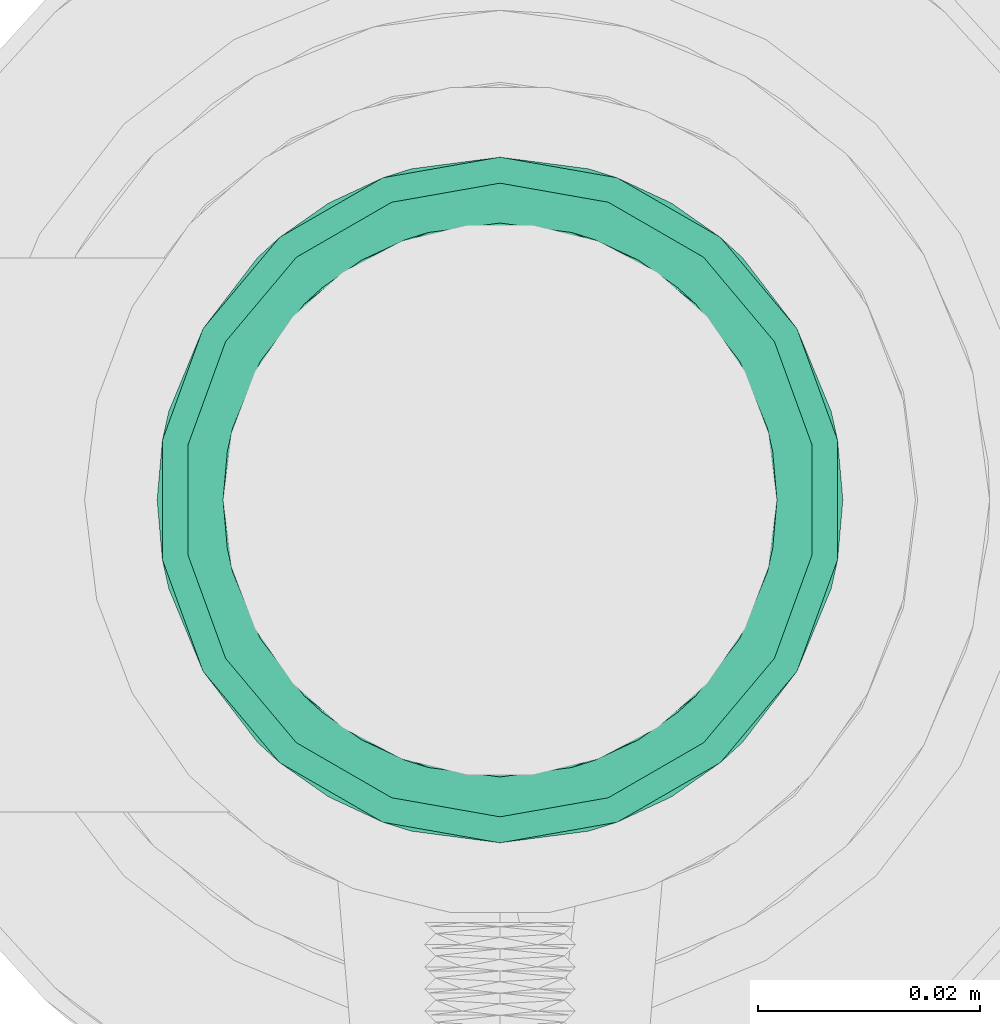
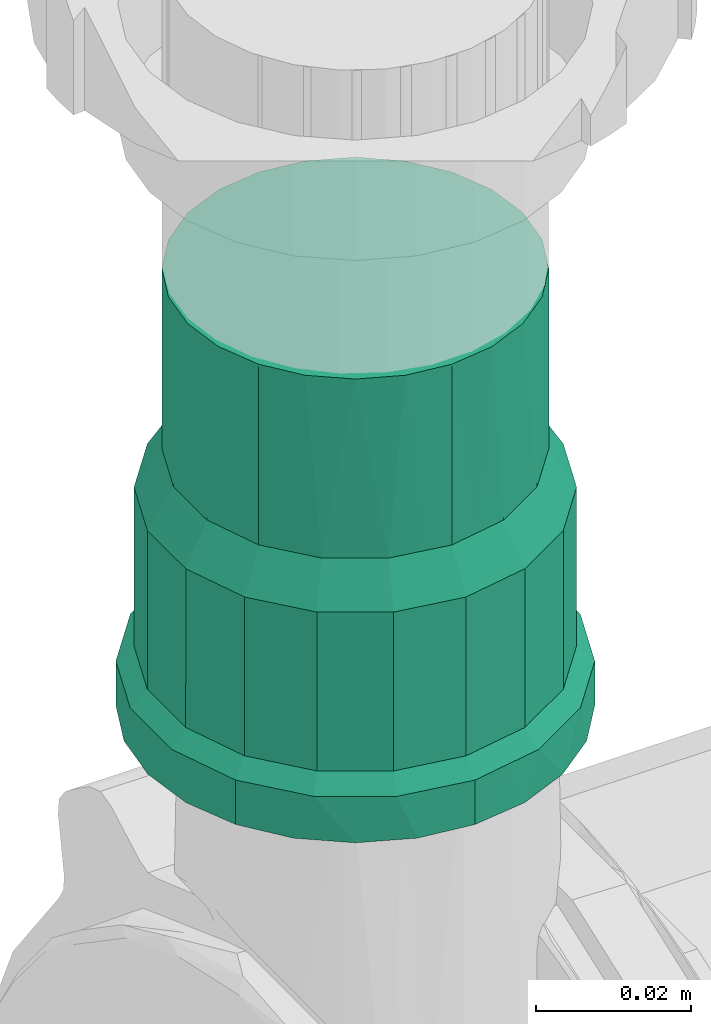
# One storey, part 163 of 166: 1 flow fitting.
"""IFC2X3 building model written with IfcOpenShell, lengths in metres."""

import ifcopenshell
import ifcopenshell.guid

model = None  # the IFC model being written
_history = None  # IfcOwnerHistory: only IFC2X3 demands one
_inside = {}  # id of a spatial element -> (the spatial element, [elements in it])
_under = {}  # id of a project, library or spatial element -> (it, [spatial elements below it])
_declared = {}  # id of a project -> (the project, [libraries it declares])
_typed = {}  # id of a type object -> (the type object, [elements of that type])
_made_of = {}  # id of a material, layer set ... -> (it, [elements and type objects made of it])


def new_model(schema):
    """Start an empty IFC model of exactly this schema.

    Asked for "IFC4X3", IfcOpenShell would pick the latest addendum, in which some entities
    have other attributes; the version numbers below select the first issue.
    IFC2X3 requires an IfcOwnerHistory on every rooted entity: one is made here for all.
    """
    global model, _history
    if schema == "IFC4X3":
        model = ifcopenshell.file(schema_version=(4, 3, 0, 0))
    else:
        model = ifcopenshell.file(schema=schema)
    _inside.clear()
    _under.clear()
    _declared.clear()
    _typed.clear()
    _made_of.clear()
    _history = None
    if model.schema == "IFC2X3":
        org = make("IfcOrganization", Name="unknown")
        user = make(
            "IfcPersonAndOrganization",
            ThePerson=make("IfcPerson", FamilyName="unknown"),
            TheOrganization=org,
        )
        app = make(
            "IfcApplication",
            ApplicationDeveloper=org,
            Version="unknown",
            ApplicationFullName="unknown",
            ApplicationIdentifier="unknown",
        )
        _history = make(
            "IfcOwnerHistory",
            OwningUser=user,
            OwningApplication=app,
            ChangeAction="ADDED",
            CreationDate=0,
        )
    return model


def make(cls, **values):
    """One entity of the class cls with the attributes given. An attribute that is None is left unset."""
    return model.create_entity(
        cls, **{name: value for name, value in values.items() if value is not None}
    )


def entity(cls, *values):
    """Any entity or typed value of the class cls, its attributes in the order of the schema. None: left unset."""
    e = model.create_entity(cls)
    for i, value in enumerate(values):
        if value is not None:
            e[i] = value
    return e


def rooted(cls, **values):
    """An entity with a GlobalId (a new one), such as an element, a storey or a relation."""
    return make(cls, GlobalId=ifcopenshell.guid.new(), OwnerHistory=_history, **values)


def si_unit(unit_type, name, prefix=None):
    """IfcSIUnit, for example si_unit("LENGTHUNIT", "METRE", prefix="MILLI")."""
    return make("IfcSIUnit", UnitType=unit_type, Prefix=prefix, Name=name)


def converted_unit(unit_type, name, factor, base, dimensions=None, offset=None):
    """IfcConversionBasedUnit, such as the inch: factor (a typed value) times the base unit."""
    return make(
        "IfcConversionBasedUnit"
        if offset is None
        else "IfcConversionBasedUnitWithOffset",
        ConversionOffset=offset,
        Dimensions=None
        if dimensions is None
        else entity("IfcDimensionalExponents", *dimensions),
        UnitType=unit_type,
        Name=name,
        ConversionFactor=make(
            "IfcMeasureWithUnit", ValueComponent=factor, UnitComponent=base
        ),
    )


def assignment(units):
    """IfcUnitAssignment: the units of a project."""
    return None if units is None else make("IfcUnitAssignment", Units=units)


def point(xyz):
    """IfcCartesianPoint."""
    return None if xyz is None else make("IfcCartesianPoint", Coordinates=xyz)


def direction(xyz):
    """IfcDirection."""
    return None if xyz is None else make("IfcDirection", DirectionRatios=xyz)


def frame(location, z_axis=None, x_axis=None):
    """IfcAxis2Placement3D, a coordinate frame: its origin and axes. An axis left out is left unset."""
    return make(
        "IfcAxis2Placement3D",
        Location=point(location),
        Axis=direction(z_axis),
        RefDirection=direction(x_axis),
    )


def origin():
    """The frame at (0, 0, 0) with its axes left unset."""
    return frame((0.0, 0.0, 0.0))


def place(relative_to, where):
    """IfcLocalPlacement: puts the frame where relative to a parent placement (None: the world)."""
    return make(
        "IfcLocalPlacement", PlacementRelTo=relative_to, RelativePlacement=where
    )


def context(
    kind, dimensions, precision=None, world=None, true_north=None, identifier=None
):
    """IfcGeometricRepresentationContext, for example the 3D "Model" context."""
    return make(
        "IfcGeometricRepresentationContext",
        ContextIdentifier=identifier,
        ContextType=kind,
        CoordinateSpaceDimension=dimensions,
        Precision=precision,
        WorldCoordinateSystem=world,
        TrueNorth=true_north,
    )


def subcontext(parent, identifier, kind, view, scale=None):
    """IfcGeometricRepresentationSubContext, for example "Body" below "Model"."""
    return make(
        "IfcGeometricRepresentationSubContext",
        ContextIdentifier=identifier,
        ContextType=kind,
        ParentContext=parent,
        TargetScale=scale,
        TargetView=view,
    )


def project(units=None, contexts=None):
    """IfcProject with its units and contexts."""
    return rooted(
        "IfcProject",
        Name="project",
        RepresentationContexts=contexts,
        UnitsInContext=assignment(units),
    )


def spatial(cls, under=None, at=None, **own):
    """A site, building, storey or space (cls), placed at a placement, below another one or the project."""
    s = rooted(cls, ObjectPlacement=at, **own)
    if under is not None:
        _under.setdefault(under.id(), (under, []))[1].append(s)
    return s


def faces_of(points, faces, orient=None, outer=None):
    """IfcFace entities. A face is a list of loops; a loop is a list of indices into points, from 0.

    orient and outer hold one flag for each loop. By default every Orientation is true, the
    first loop of a face is its IfcFaceOuterBound and the others are IfcFaceBound.
    """
    made = []
    for i, loops in enumerate(faces):
        bounds = []
        for j, loop in enumerate(loops):
            is_outer = j == 0 if outer is None else outer[i][j]
            bounds.append(
                make(
                    "IfcFaceOuterBound" if is_outer else "IfcFaceBound",
                    Bound=make("IfcPolyLoop", Polygon=[points[k] for k in loop]),
                    Orientation=True if orient is None else orient[i][j],
                )
            )
        made.append(make("IfcFace", Bounds=bounds))
    return made


def faceted_brep(points, faces, orient=None, outer=None, voids=None):
    """IfcFacetedBrep: a solid bounded by flat faces; with voids (closed shells), ...WithVoids."""
    shared = [point(p) for p in points]
    hull = make("IfcClosedShell", CfsFaces=faces_of(shared, faces, orient, outer))
    if voids is None:
        return make("IfcFacetedBrep", Outer=hull)
    return make(
        "IfcFacetedBrepWithVoids",
        Outer=hull,
        Voids=[
            make(cls, CfsFaces=faces_of(shared, fs, o, b)) for cls, fs, o, b in voids
        ],
    )


def shape(context_of_items, identifier, shape_type, items):
    """IfcShapeRepresentation: the items that make up one representation, for example the "Body"."""
    return make(
        "IfcShapeRepresentation",
        ContextOfItems=context_of_items,
        RepresentationIdentifier=identifier,
        RepresentationType=shape_type,
        Items=items,
    )


def source(mapping_origin, context_of_items, identifier, shape_type, items):
    """IfcRepresentationMap: a shape defined once, which mapped items show again and again."""
    return make(
        "IfcRepresentationMap",
        MappingOrigin=mapping_origin,
        MappedRepresentation=shape(context_of_items, identifier, shape_type, items),
    )


def transform(
    local_origin,
    x_axis=None,
    y_axis=None,
    z_axis=None,
    scale=None,
    scale2=None,
    scale3=None,
    uniform=True,
):
    """IfcCartesianTransformationOperator3D, or its non-uniform kind. x_axis, y_axis, z_axis: its Axis1, 2, 3."""
    if uniform:
        return make(
            "IfcCartesianTransformationOperator3D",
            Axis1=direction(x_axis),
            Axis2=direction(y_axis),
            LocalOrigin=point(local_origin),
            Scale=scale,
            Axis3=direction(z_axis),
        )
    return make(
        "IfcCartesianTransformationOperator3DnonUniform",
        Axis1=direction(x_axis),
        Axis2=direction(y_axis),
        LocalOrigin=point(local_origin),
        Scale=scale,
        Axis3=direction(z_axis),
        Scale2=scale2,
        Scale3=scale3,
    )


def mapped(mapping_source, mapping_target):
    """IfcMappedItem: shows the shape of a source again, moved by a transform."""
    return make(
        "IfcMappedItem", MappingSource=mapping_source, MappingTarget=mapping_target
    )


def material(Name=None, Category=None):
    """IfcMaterial."""
    return make("IfcMaterial", Name=Name, Category=Category)


def made_of(thing, what):
    """Note that an element or type object is made of a material, layer set ...; save() writes the relation."""
    if what is not None:
        _made_of.setdefault(what.id(), (what, []))[1].append(thing)
    return thing


def type_object(cls, material=None, **own):
    """A type object (cls), such as IfcWallType, which elements share."""
    return made_of(rooted(cls, **own), material)


def type_shapes(of_type, sources):
    """Give a type object the sources (RepresentationMaps) that its elements show as mapped items."""
    of_type.RepresentationMaps = sources


def element(
    cls,
    number,
    at=None,
    inside=None,
    cuts=None,
    type_object=None,
    material=None,
    context=None,
    identifier="Body",
    shape_type=None,
    held_by="IfcProductDefinitionShape",
    body=None,
    shapes=None,
    **own,
):
    """One element of the class cls, such as IfcWall. Its Tag is "e" and its number.

    at: its placement. inside: the storey or other place that contains it. cuts: it is an
    opening in that element (IfcRelVoidsElement). A single representation is given by context,
    identifier, shape_type and body (its items); several are given by shapes. held_by: the class
    of the entity that holds the representations. save() writes the other relations.
    """
    e = rooted(cls, Tag="e%d" % number, ObjectPlacement=at, **own)
    if body is not None:
        shapes = [shape(context, identifier, shape_type, body)]
    if shapes is not None:
        e.Representation = make(held_by, Representations=shapes)
    if inside is not None:
        _inside.setdefault(inside.id(), (inside, []))[1].append(e)
    if cuts is not None:
        rooted(
            "IfcRelVoidsElement", RelatingBuildingElement=cuts, RelatedOpeningElement=e
        )
    if type_object is not None:
        _typed.setdefault(type_object.id(), (type_object, []))[1].append(e)
    return made_of(e, material)


def aggregate(whole, parts):
    """IfcRelAggregates: a whole, such as a stair, and the parts it consists of."""
    return rooted("IfcRelAggregates", RelatingObject=whole, RelatedObjects=parts)


def save(model, path):
    """Write the relations noted so far, then the file.

    IfcRelAggregates (storeys below a building ...), IfcRelContainedInSpatialStructure (elements
    in a storey), IfcRelDefinesByType, IfcRelAssociatesMaterial and IfcRelDeclares: one each for
    every whole, place, type object, material and project.
    """
    for whole, parts in _under.values():
        aggregate(whole, parts)
    for where, things in _inside.values():
        rooted(
            "IfcRelContainedInSpatialStructure",
            RelatedElements=things,
            RelatingStructure=where,
        )
    for kind, things in _typed.values():
        rooted("IfcRelDefinesByType", RelatedObjects=things, RelatingType=kind)
    for what, things in _made_of.values():
        rooted("IfcRelAssociatesMaterial", RelatedObjects=things, RelatingMaterial=what)
    for by, libraries in _declared.values():
        rooted("IfcRelDeclares", RelatingContext=by, RelatedDefinitions=libraries)
    model.write(path)


model = new_model("IFC2X3")

# Units and contexts
model_context = context("Model", 3, precision=1e-05, world=origin(), true_north=direction((6.123233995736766e-17, 1.0)))
body_context = subcontext(model_context, "Body", "Model", "MODEL_VIEW")
ifc_project = project(units=[si_unit("LENGTHUNIT", "METRE"), converted_unit("PLANEANGLEUNIT", "DEGREE", entity("IfcPlaneAngleMeasure", 0.017453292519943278), si_unit("PLANEANGLEUNIT", "RADIAN"), dimensions=[0, 0, 0, 0, 0, 0, 0]), si_unit("AREAUNIT", "SQUARE_METRE")], contexts=[model_context])

# Site, building, storey
site_placement = place(None, origin())
site = spatial("IfcSite", under=ifc_project, at=site_placement, Name="Default", CompositionType="ELEMENT")
building_placement = place(site_placement, origin())
building = spatial("IfcBuilding", under=site, at=building_placement, Name="CASA DE ACOLHIDA PARA IDOSOS", CompositionType="ELEMENT")
storey_placement = place(building_placement, frame((0.0, 0.0, -1.7499999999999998)))
storey = spatial("IfcBuildingStorey", under=building, at=storey_placement, Name="IMPLANTAÇÃO DRENAGEM", CompositionType="ELEMENT", Elevation=-1.7499999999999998)

# Flow fitting
ifc_material = material(Name="PVC Marrom")
pipe_fitting_type = type_object("IfcPipeFittingType", Name="AF_Soldavel_Adaptador Curto com Bolsa e Rosca:Standard", PredefinedType="NOTDEFINED", material=ifc_material)
shared_shape = source(origin(), body_context, "Body", "Brep", [
    faceted_brep([(0.0, 0.012499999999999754, -0.02165063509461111), (0.0, 0.02188495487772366, -0.021884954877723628), (0.0, 0.015475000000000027, -0.026803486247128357), (0.0, 0.017677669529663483, -0.0176776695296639), (0.0, 0.00647047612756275, -0.024148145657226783), (0.0, 0.026803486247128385, -0.015474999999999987), (0.0, 0.021650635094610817, -0.012500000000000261), (0.0, 0.02414814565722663, -0.006470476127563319), (0.0, 0.029895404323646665, -0.00801044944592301), (0.0, 0.025, 0.0), (0.0, 0.03095, 0.0), (0.0, 0.02414814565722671, 0.006470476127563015), (0.0, 0.02989540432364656, 0.008010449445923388), (0.0, 0.02165063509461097, 0.012499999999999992), (0.0, 0.02680348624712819, 0.015475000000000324), (0.0, 0.017677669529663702, 0.017677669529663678), (0.0, 0.02188495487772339, 0.021884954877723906), (0.0, 0.012500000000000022, 0.021650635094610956), (0.0, 0.015474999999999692, 0.026803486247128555), (0.0, 0.006470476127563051, 0.0241481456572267), (0.0, 0.008010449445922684, 0.029895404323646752), (0.0, 0.0, 0.025), (0.0, 0.0, 0.03095), (0.0, -0.006470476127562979, 0.024148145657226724), (0.0, -0.008010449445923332, 0.029895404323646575), (0.0, -0.012499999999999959, 0.021650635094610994), (0.0, -0.015475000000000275, 0.026803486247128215), (0.0, -0.01767766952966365, 0.01767766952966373), (0.0, -0.021884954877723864, 0.021884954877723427), (0.0, -0.021650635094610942, 0.012500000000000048), (0.0, -0.02680348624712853, 0.015474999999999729), (0.0, -0.029895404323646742, 0.008010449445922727), (0.0, -0.02414814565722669, 0.00647047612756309), (0.0, -0.03095, 0.0), (0.0, -0.025, 0.0), (0.0, -0.029895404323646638, -0.008010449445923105), (0.0, -0.024148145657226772, -0.006470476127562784), (0.0, -0.026803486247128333, -0.015475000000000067), (0.0, -0.0216506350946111, -0.012499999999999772), (0.0, -0.021884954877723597, -0.021884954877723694), (0.0, -0.017677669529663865, -0.01767766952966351), (0.0, -0.015474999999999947, -0.02680348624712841), (0.0, -0.012500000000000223, -0.021650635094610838), (0.0, -0.008010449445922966, -0.029895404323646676), (0.0, -0.006470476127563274, -0.02414814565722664), (0.0, 0.0, -0.03095), (0.0, 0.0, -0.025), (0.0, 0.008010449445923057, -0.02989540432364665), (0.006999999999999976, -0.030016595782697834, 0.00529316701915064), (0.006999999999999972, -0.02988065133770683, 0.006064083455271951), (0.006999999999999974, -0.029083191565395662, 0.010586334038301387), (0.006999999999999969, -0.0237079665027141, 0.019895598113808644), (0.0069999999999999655, -0.019590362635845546, 0.0233501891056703), (0.0069999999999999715, -0.026395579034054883, 0.015240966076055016), (0.006999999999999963, -0.0053710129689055, 0.030480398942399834), (0.006999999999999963, -0.010421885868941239, 0.0286425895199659), (0.0069999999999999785, -0.03095, 0.0), (0.006999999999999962, -0.015472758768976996, 0.026804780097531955), (0.006999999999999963, 0.010429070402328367, 0.028639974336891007), (0.006999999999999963, 0.01547948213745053, 0.026800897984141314), (0.006999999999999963, 0.005378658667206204, 0.030479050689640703), (0.006999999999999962, 0.019596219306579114, 0.023345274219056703), (0.006999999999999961, 0.023712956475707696, 0.019889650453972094), (0.006999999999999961, 0.02908584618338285, 0.010579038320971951), (0.0069999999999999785, 0.03095, 0.0), (0.006999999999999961, 0.02639940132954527, 0.01523434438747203), (0.006999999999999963, 3.822849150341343e-06, 0.03047972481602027), (0.007000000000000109, 0.02908584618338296, -0.010579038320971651), (0.007000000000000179, 0.023712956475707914, -0.019889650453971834), (0.0070000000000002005, 0.019596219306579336, -0.023345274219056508), (0.007000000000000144, 0.02639940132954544, -0.01523434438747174), (0.007000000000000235, 0.005378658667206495, -0.030479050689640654), (0.007000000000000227, 0.01042907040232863, -0.028639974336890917), (0.007000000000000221, 0.015479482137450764, -0.02680089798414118), (0.007000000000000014, -0.030016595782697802, -0.005293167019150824), (0.007000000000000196, -0.010421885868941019, -0.028642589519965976), (0.007000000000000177, -0.0154727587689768, -0.02680478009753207), (0.007000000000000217, -0.005371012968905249, -0.030480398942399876), (0.007000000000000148, -0.019590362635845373, -0.023350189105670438), (0.007000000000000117, -0.023707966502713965, -0.019895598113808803), (0.007000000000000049, -0.0290831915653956, -0.010586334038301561), (0.007000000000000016, -0.029880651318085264, -0.006064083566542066), (0.007000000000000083, -0.026395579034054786, -0.015240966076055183), (0.007000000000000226, 3.8228491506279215e-06, -0.03047972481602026), (0.009400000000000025, -0.026874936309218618, 0.009782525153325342), (0.009400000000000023, -0.027737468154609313, 0.004891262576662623), (0.034449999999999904, -0.026875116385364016, 0.009782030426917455), (0.009400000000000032, -0.018102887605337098, 0.021577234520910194), (0.034449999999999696, -0.014299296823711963, 0.024768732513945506), (0.009400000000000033, -0.014297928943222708, 0.024769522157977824), (0.009400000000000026, -0.024391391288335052, 0.014083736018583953), (0.03444999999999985, -0.024391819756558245, 0.014083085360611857), (0.0344499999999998, -0.021908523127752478, 0.018384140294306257), (0.03444999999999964, -0.004965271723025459, 0.028165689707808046), (0.009400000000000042, -0.004963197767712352, 0.028166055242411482), (0.009400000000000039, -0.00963056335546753, 0.02646778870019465), (0.009400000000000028, -0.021907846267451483, 0.018384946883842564), (0.009400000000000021, -0.028600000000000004, 0.0), (0.03444999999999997, -0.027796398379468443, 0.004557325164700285), (0.03444999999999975, -0.018103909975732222, 0.02157643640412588), (0.03444999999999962, 0.004967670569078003, 0.028165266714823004), (0.009400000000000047, 3.532584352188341e-06, 0.02816543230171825), (0.034449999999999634, 1.1994230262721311e-06, 0.028165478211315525), (0.03444999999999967, -0.009632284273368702, 0.026467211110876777), (0.009400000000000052, 0.004970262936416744, 0.028164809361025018), (0.009400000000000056, 0.00963720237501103, 0.026465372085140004), (0.034449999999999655, 0.014301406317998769, 0.02476751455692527), (0.009400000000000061, 0.014304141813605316, 0.024765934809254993), (0.0344499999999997, 0.018105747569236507, 0.021574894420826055), (0.03444999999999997, -0.02773755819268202, 0.004891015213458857), (0.03444999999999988, 0.026875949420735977, 0.009779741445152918), (0.03445000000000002, 0.028600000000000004, 0.0), (0.009400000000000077, 0.02687738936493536, 0.009775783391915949), (0.03444999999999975, 0.021910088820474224, 0.018382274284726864), (0.00940000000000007, 0.021912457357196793, 0.018379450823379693), (0.009400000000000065, 0.018108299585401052, 0.02157269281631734), (0.03444999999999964, 0.00963453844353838, 0.02646639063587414), (0.009400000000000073, 0.02439492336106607, 0.014077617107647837), (0.03445000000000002, -0.028600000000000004, 0.0), (0.009400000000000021, 0.028600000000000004, 0.0), (0.034449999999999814, 0.0243930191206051, 0.014081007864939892), (0.009400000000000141, 0.026877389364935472, -0.00977578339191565), (0.03445000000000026, 0.02687594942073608, -0.00977974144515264), (0.009400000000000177, -0.01810288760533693, -0.02157723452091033), (0.034450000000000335, -0.01429929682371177, -0.02476873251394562), (0.03445000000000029, -0.01810390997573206, -0.02157643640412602), (0.009400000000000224, 0.018108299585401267, -0.021572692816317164), (0.009400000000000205, 0.021912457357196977, -0.01837945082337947), (0.03445000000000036, 0.02191008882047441, -0.018382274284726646), (0.009400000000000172, 0.024394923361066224, -0.014077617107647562), (0.034450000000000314, 0.024393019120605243, -0.014081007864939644), (0.009400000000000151, -0.021907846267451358, -0.01838494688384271), (0.034450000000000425, 1.1994230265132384e-06, -0.028165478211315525), (0.009400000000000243, -0.00496319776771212, -0.028166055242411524), (0.00940000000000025, 3.5325843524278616e-06, -0.02816543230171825), (0.00940000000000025, 0.009637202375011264, -0.026465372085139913), (0.009400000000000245, 0.014304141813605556, -0.024765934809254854), (0.034450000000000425, 0.014301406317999, -0.02476751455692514), (0.009400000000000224, -0.00963056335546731, -0.026467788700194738), (0.03445000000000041, -0.004965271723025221, -0.028165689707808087), (0.03445000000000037, -0.009632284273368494, -0.026467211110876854), (0.034450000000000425, 0.009634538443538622, -0.02646639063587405), (0.009400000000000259, 0.0049702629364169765, -0.028164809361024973), (0.009400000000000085, -0.026874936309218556, -0.009782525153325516), (0.009400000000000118, -0.024391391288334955, -0.014083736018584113), (0.03445000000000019, -0.024391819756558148, -0.014083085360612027), (0.03445000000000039, 0.0181057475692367, -0.021574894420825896), (0.03445000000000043, 0.004967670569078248, -0.02816526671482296), (0.03445000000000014, -0.02687511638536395, -0.009782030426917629), (0.03445000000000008, -0.02779639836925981, -0.004557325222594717), (0.009400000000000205, -0.014297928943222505, -0.024769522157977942), (0.009400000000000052, -0.02773746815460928, -0.004891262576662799), (0.034450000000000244, -0.021908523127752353, -0.01838414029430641), (0.03445000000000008, -0.027737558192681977, -0.004891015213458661), (0.06899999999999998, 0.006470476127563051, -0.0241481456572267), (0.06899999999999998, 0.012500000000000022, -0.021650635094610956), (0.06899999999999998, 0.017677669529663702, -0.017677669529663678), (0.06899999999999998, 0.021650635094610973, -0.01249999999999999), (0.06899999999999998, 0.02414814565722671, -0.006470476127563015), (0.06899999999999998, 0.025, 0.0), (0.06899999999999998, 0.02414814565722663, 0.006470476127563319), (0.06899999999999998, 0.021650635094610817, 0.012500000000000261), (0.06899999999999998, 0.017677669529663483, 0.0176776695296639), (0.06899999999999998, 0.012499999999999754, 0.02165063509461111), (0.06899999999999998, 0.00647047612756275, 0.024148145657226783), (0.06899999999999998, 0.0, 0.025), (0.06899999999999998, -0.006470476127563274, 0.02414814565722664), (0.06899999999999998, -0.012500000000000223, 0.021650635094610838), (0.06899999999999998, -0.017677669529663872, 0.017677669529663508), (0.06899999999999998, -0.021650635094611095, 0.012499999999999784), (0.06899999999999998, -0.024148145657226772, 0.006470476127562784), (0.06899999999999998, -0.025, 0.0), (0.06899999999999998, -0.02414814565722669, -0.00647047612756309), (0.06899999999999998, -0.021650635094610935, -0.012500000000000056), (0.06899999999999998, -0.01767766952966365, -0.01767766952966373), (0.06899999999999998, -0.012499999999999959, -0.021650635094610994), (0.06899999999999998, -0.006470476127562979, -0.024148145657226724), (0.06899999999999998, 0.0, -0.025), (0.04049999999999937, -0.00841832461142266, 0.02313617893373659), (0.04049999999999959, -0.0191502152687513, 0.016070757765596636), (0.04049999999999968, -0.021321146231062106, 0.012310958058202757), (0.04049999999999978, -0.023492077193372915, 0.008551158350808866), (0.040499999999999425, -0.012498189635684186, 0.02165168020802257), (0.04049999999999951, -0.015824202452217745, 0.018861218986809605), (0.040499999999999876, -0.024246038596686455, 0.0042755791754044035), (0.04049999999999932, -0.004338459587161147, 0.024620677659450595), (0.04049999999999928, 0.00434463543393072, 0.02461958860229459), (0.04049999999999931, 3.0879233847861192e-06, 0.024620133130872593), (0.04049999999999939, 0.015828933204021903, 0.018857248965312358), (0.04049999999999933, 0.012503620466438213, 0.021648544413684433), (0.04049999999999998, -0.025, 0.0), (0.04049999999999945, 0.019154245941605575, 0.016065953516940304), (0.04049999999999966, 0.023494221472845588, 0.00854526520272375), (0.04049999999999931, 0.008424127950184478, 0.023134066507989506), (0.04049999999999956, 0.021324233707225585, 0.012305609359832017), (0.04049999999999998, 0.025, 0.0), (0.04050000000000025, 0.019154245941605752, -0.01606595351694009), (0.04050000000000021, -0.015824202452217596, -0.018861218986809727), (0.04050000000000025, -0.012498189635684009, -0.02165168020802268), (0.04050000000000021, 0.02132423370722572, -0.012305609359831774), (0.04050000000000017, 0.023494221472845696, -0.008545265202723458), (0.040500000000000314, 0.012503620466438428, -0.02164854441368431), (0.040500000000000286, 0.01582893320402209, -0.0188572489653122), (0.04050000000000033, 0.004344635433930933, -0.024619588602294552), (0.04050000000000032, 0.008424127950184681, -0.02313406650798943), (0.040500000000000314, -0.004338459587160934, -0.02462067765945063), (0.04050000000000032, 3.08792338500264e-06, -0.024620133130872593), (0.040500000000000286, -0.008418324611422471, -0.023136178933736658), (0.04050000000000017, -0.019150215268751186, -0.016070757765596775), (0.04050000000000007, -0.02349207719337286, -0.008551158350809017), (0.04050000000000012, -0.021321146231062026, -0.01231095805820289), (0.04050000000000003, -0.024246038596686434, -0.004275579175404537), (0.009400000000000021, -0.025, 0.0), (0.03445000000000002, -0.025, 0.0), (0.03445000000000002, -0.024148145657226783, -0.006470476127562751), (0.009400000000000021, -0.024148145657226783, -0.006470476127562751), (0.0069999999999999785, -0.024148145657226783, -0.006470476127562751), (0.0069999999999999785, -0.025, 0.0), (0.03445000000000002, -0.021650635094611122, -0.012499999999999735), (0.009400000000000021, -0.021650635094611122, -0.012499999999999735), (0.0069999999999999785, -0.021650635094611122, -0.012499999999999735), (0.009400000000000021, -0.012500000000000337, -0.021650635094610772), (0.0069999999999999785, -0.012500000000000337, -0.021650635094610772), (0.0069999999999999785, -0.017677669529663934, -0.01767766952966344), (0.009400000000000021, -0.017677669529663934, -0.01767766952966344), (0.03445000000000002, -0.017677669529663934, -0.01767766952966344), (0.03445000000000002, -0.012500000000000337, -0.021650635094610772), (0.009400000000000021, -0.006470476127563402, -0.02414814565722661), (0.0069999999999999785, -0.006470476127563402, -0.02414814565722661), (0.03445000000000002, -0.006470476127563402, -0.02414814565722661), (0.03445000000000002, 0.0, -0.025), (0.009400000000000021, 0.0, -0.025), (0.0069999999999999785, 0.0, -0.025), (0.03445000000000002, 0.00647047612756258, -0.024148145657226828), (0.009400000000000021, 0.00647047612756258, -0.024148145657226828), (0.0069999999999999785, 0.00647047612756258, -0.024148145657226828), (0.03445000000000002, 0.012499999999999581, -0.021650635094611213), (0.009400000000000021, 0.012499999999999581, -0.021650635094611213), (0.0069999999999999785, 0.012499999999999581, -0.021650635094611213), (0.03445000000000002, 0.024148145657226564, -0.0064704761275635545), (0.03445000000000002, 0.025, 0.0), (0.009400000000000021, 0.025, 0.0), (0.0069999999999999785, 0.025, 0.0), (0.0069999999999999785, 0.02414814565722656, -0.006470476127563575), (0.009400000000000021, 0.024148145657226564, -0.0064704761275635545), (0.03445000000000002, 0.017677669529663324, -0.017677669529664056), (0.009400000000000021, 0.017677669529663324, -0.017677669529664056), (0.0069999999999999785, 0.017677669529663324, -0.017677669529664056), (0.03445000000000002, 0.021650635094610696, -0.012500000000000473), (0.009400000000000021, 0.021650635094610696, -0.012500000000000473), (0.0069999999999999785, 0.021650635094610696, -0.012500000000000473), (0.03445000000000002, 0.02414814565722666, 0.006470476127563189), (0.009400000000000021, 0.02414814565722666, 0.006470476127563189), (0.0069999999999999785, 0.02414814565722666, 0.006470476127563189), (0.03445000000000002, 0.021650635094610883, 0.01250000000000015), (0.009400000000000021, 0.021650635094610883, 0.01250000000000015), (0.0069999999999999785, 0.021650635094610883, 0.01250000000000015), (0.009400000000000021, 0.01249999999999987, 0.021650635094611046), (0.0069999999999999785, 0.01249999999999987, 0.021650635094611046), (0.0069999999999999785, 0.017677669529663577, 0.017677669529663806), (0.009400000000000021, 0.017677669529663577, 0.017677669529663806), (0.03445000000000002, 0.017677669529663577, 0.017677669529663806), (0.03445000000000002, 0.01249999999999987, 0.021650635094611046), (0.009400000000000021, 0.006470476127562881, 0.024148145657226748), (0.0069999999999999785, 0.006470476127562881, 0.024148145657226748), (0.03445000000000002, 0.006470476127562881, 0.024148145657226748), (0.03445000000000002, 0.0, 0.025), (0.009400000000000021, 0.0, 0.025), (0.0069999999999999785, 0.0, 0.025), (0.009400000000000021, -0.017677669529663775, 0.017677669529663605), (0.0069999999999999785, -0.017677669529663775, 0.017677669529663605), (0.0069999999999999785, -0.012500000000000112, 0.021650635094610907), (0.009400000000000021, -0.012500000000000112, 0.021650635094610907), (0.03445000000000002, -0.012500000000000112, 0.021650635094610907), (0.03445000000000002, -0.017677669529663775, 0.017677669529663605), (0.009400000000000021, -0.024148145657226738, 0.006470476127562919), (0.0069999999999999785, -0.024148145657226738, 0.006470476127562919), (0.0069999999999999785, -0.021650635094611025, 0.012499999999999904), (0.009400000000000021, -0.021650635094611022, 0.012499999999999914), (0.03445000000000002, -0.021650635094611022, 0.012499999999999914), (0.03445000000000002, -0.024148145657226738, 0.006470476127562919), (0.0069999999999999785, -0.006470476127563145, 0.024148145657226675), (0.009400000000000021, -0.006470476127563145, 0.024148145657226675), (0.03445000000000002, -0.006470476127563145, 0.024148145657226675)], [[[0, 1, 2]], [[3, 1, 0]], [[4, 0, 2]], [[1, 3, 5]], [[5, 3, 6]], [[5, 6, 7]], [[8, 5, 7]], [[9, 8, 7]], [[10, 8, 9]], [[10, 9, 11]], [[12, 10, 11]], [[12, 11, 13]], [[14, 12, 13]], [[14, 13, 15]], [[15, 16, 14]], [[15, 17, 16]], [[18, 16, 17]], [[19, 18, 17]], [[18, 19, 20]], [[21, 20, 19]], [[22, 20, 21]], [[21, 23, 22]], [[24, 22, 23]], [[25, 24, 23]], [[24, 25, 26]], [[25, 27, 26]], [[27, 28, 26]], [[28, 27, 29]], [[28, 29, 30]], [[30, 29, 31]], [[31, 29, 32]], [[33, 31, 32]], [[32, 34, 33]], [[33, 34, 35]], [[34, 36, 35]], [[37, 35, 36]], [[37, 36, 38]], [[39, 37, 38]], [[40, 39, 38]], [[40, 41, 39]], [[42, 41, 40]], [[43, 41, 42]], [[42, 44, 43]], [[43, 44, 45]], [[44, 46, 45]], [[46, 4, 47]], [[45, 46, 47]], [[2, 47, 4]], [[31, 48, 49, 50]], [[28, 51, 52]], [[51, 30, 50, 53]], [[54, 24, 55]], [[30, 31, 50]], [[56, 48, 33]], [[52, 57, 26]], [[52, 26, 28]], [[30, 51, 28]], [[58, 59, 18]], [[58, 18, 20]], [[26, 57, 55]], [[26, 55, 24]], [[22, 24, 54]], [[33, 48, 31]], [[20, 60, 58]], [[16, 61, 62]], [[12, 63, 64]], [[63, 14, 62, 65]], [[12, 64, 10]], [[18, 61, 16]], [[22, 54, 66, 60]], [[22, 60, 20]], [[14, 16, 62]], [[59, 61, 18]], [[14, 63, 12]], [[8, 64, 67]], [[1, 68, 69]], [[68, 5, 67, 70]], [[71, 47, 72]], [[5, 8, 67]], [[8, 10, 64]], [[2, 72, 47]], [[69, 73, 2]], [[5, 68, 1]], [[74, 33, 35]], [[75, 76, 41]], [[2, 73, 72]], [[75, 41, 43]], [[45, 47, 71]], [[69, 2, 1]], [[43, 77, 75]], [[39, 78, 79]], [[35, 80, 81, 74]], [[80, 37, 79, 82]], [[37, 80, 35]], [[41, 78, 39]], [[45, 71, 83, 77]], [[45, 77, 43]], [[37, 39, 79]], [[76, 78, 41]], [[74, 56, 33]], [[84, 85, 86]], [[87, 88, 89]], [[90, 91, 92]], [[93, 94, 95]], [[92, 96, 90]], [[85, 97, 98]], [[99, 87, 96]], [[91, 84, 86]], [[100, 101, 102]], [[93, 95, 103]], [[89, 103, 95]], [[84, 91, 90]], [[100, 104, 101]], [[88, 87, 99]], [[105, 106, 107]], [[108, 107, 106]], [[85, 98, 109, 86]], [[102, 94, 93]], [[110, 111, 112]], [[113, 114, 115]], [[116, 104, 100]], [[112, 117, 110]], [[113, 115, 108]], [[104, 116, 105]], [[97, 118, 98]], [[115, 107, 108]], [[119, 112, 111]], [[99, 96, 92]], [[117, 114, 120]], [[110, 117, 120]], [[103, 89, 88]], [[102, 101, 94]], [[120, 114, 113]], [[106, 105, 116]], [[121, 111, 122]], [[123, 124, 125]], [[126, 127, 128]], [[129, 122, 130]], [[125, 131, 123]], [[129, 121, 122]], [[132, 133, 134]], [[135, 136, 137]], [[138, 139, 140]], [[119, 111, 121]], [[130, 127, 129]], [[141, 142, 135]], [[143, 144, 145]], [[126, 128, 146]], [[134, 147, 132]], [[135, 137, 141]], [[132, 139, 133]], [[138, 133, 139]], [[137, 136, 146]], [[143, 145, 148]], [[147, 142, 141]], [[149, 118, 97]], [[123, 150, 124]], [[124, 150, 140]], [[148, 151, 143]], [[146, 136, 126]], [[152, 144, 131]], [[151, 148, 153, 149]], [[144, 152, 145]], [[152, 131, 125]], [[142, 147, 134]], [[149, 97, 151]], [[128, 127, 130]], [[140, 150, 138]], [[154, 155, 156, 157, 158, 159, 160, 161, 162, 163, 164, 165, 166, 167, 168, 169, 170, 171, 172, 173, 174, 175, 176, 177]], [[178, 167, 166]], [[169, 168, 179]], [[169, 179, 180, 181]], [[182, 183, 167]], [[170, 181, 184]], [[166, 185, 178]], [[179, 168, 183]], [[165, 186, 187, 185]], [[165, 185, 166]], [[167, 183, 168]], [[188, 189, 163]], [[184, 171, 170]], [[184, 190, 171]], [[161, 191, 162]], [[169, 181, 170]], [[161, 160, 192]], [[163, 193, 164]], [[161, 192, 194, 191]], [[195, 160, 159]], [[164, 193, 186]], [[186, 165, 164]], [[189, 193, 163]], [[188, 163, 162]], [[162, 191, 188]], [[160, 195, 192]], [[178, 182, 167]], [[195, 159, 158]], [[157, 156, 196]], [[197, 198, 175]], [[157, 196, 199, 200]], [[201, 202, 155]], [[200, 195, 158]], [[154, 203, 204]], [[196, 156, 202]], [[177, 205, 206, 203]], [[197, 175, 174]], [[155, 202, 156]], [[204, 201, 155]], [[175, 198, 207]], [[157, 200, 158]], [[204, 155, 154]], [[173, 208, 174]], [[173, 172, 209]], [[173, 209, 210, 208]], [[171, 190, 211]], [[205, 177, 176]], [[207, 205, 176]], [[175, 207, 176]], [[174, 208, 197]], [[211, 209, 172]], [[171, 211, 172]], [[177, 203, 154]], [[212, 213, 214, 215, 216, 36, 34, 217]], [[215, 214, 218, 219, 220, 38, 36, 216]], [[221, 222, 42, 40, 223, 224, 225, 226]], [[225, 224, 223, 40, 38, 220, 219, 218]], [[227, 228, 44, 42, 222, 221, 226, 229]], [[227, 229, 230, 231, 232, 46, 44, 228]], [[231, 230, 233, 234, 235, 4, 46, 232]], [[234, 233, 236, 237, 238, 0, 4, 235]], [[239, 240, 241, 242, 9, 7, 243, 244]], [[237, 236, 245, 246, 247, 3, 0, 238]], [[245, 248, 249, 250, 6, 3, 247, 246]], [[248, 239, 244, 243, 7, 6, 250, 249]], [[241, 240, 251, 252, 253, 11, 9, 242]], [[252, 251, 254, 255, 256, 13, 11, 253]], [[257, 258, 17, 15, 259, 260, 261, 262]], [[261, 260, 259, 15, 13, 256, 255, 254]], [[263, 264, 19, 17, 258, 257, 262, 265]], [[263, 265, 266, 267, 268, 21, 19, 264]], [[269, 270, 27, 25, 271, 272, 273, 274]], [[275, 276, 32, 29, 277, 278, 279, 280]], [[274, 279, 278, 277, 29, 27, 270, 269]], [[212, 217, 34, 32, 276, 275, 280, 213]], [[273, 272, 271, 25, 23, 281, 282, 283]], [[267, 266, 283, 282, 281, 23, 21, 268]], [[64, 119, 121, 67]], [[81, 80, 143, 151, 97, 56, 74]], [[73, 136, 135, 142, 71, 72]], [[71, 142, 134, 133, 77, 83]], [[73, 69, 68, 127, 126, 136]], [[127, 68, 70, 67, 121, 129]], [[77, 133, 138, 150, 76, 75]], [[143, 80, 82, 79, 131, 144]], [[78, 76, 150, 123, 131, 79]], [[84, 50, 49, 48, 56, 97, 85]], [[53, 50, 84, 90, 96, 51]], [[52, 51, 96, 87, 89, 57]], [[89, 95, 94, 54, 55, 57]], [[101, 104, 60, 66, 54, 94]], [[105, 107, 59, 58, 60, 104]], [[112, 119, 64, 63]], [[114, 117, 112, 63, 65, 62]], [[107, 115, 114, 62, 61, 59]], [[233, 230, 229, 226, 225, 218, 214, 213, 280, 279, 274, 273, 283, 266, 265, 262, 261, 254, 251, 240, 239, 248, 245, 236]], [[190, 109, 98, 118]], [[184, 86, 109]], [[181, 86, 184]], [[185, 93, 178]], [[103, 88, 182]], [[99, 92, 179]], [[182, 88, 183]], [[91, 86, 181]], [[103, 182, 178]], [[178, 93, 103]], [[102, 185, 187]], [[180, 92, 91]], [[187, 100, 102]], [[91, 181, 180]], [[183, 88, 99]], [[99, 179, 183]], [[187, 186, 100]], [[191, 113, 188]], [[116, 100, 186]], [[179, 92, 180]], [[93, 185, 102]], [[189, 106, 193]], [[192, 195, 111]], [[120, 113, 191]], [[192, 110, 194]], [[108, 106, 189]], [[120, 191, 194]], [[194, 110, 120]], [[109, 190, 184]], [[188, 113, 108]], [[192, 111, 110]], [[108, 189, 188]], [[193, 106, 116]], [[116, 186, 193]], [[195, 200, 111]], [[203, 141, 204]], [[201, 146, 202]], [[196, 130, 199]], [[203, 147, 141]], [[201, 137, 146]], [[205, 132, 206]], [[196, 128, 130]], [[202, 128, 196]], [[111, 200, 122]], [[199, 130, 122]], [[146, 128, 202]], [[207, 139, 205]], [[206, 147, 203]], [[204, 141, 137]], [[199, 122, 200]], [[205, 139, 132]], [[204, 137, 201]], [[198, 124, 140]], [[198, 140, 207]], [[190, 153, 211]], [[209, 145, 210]], [[190, 118, 149, 153]], [[209, 148, 145]], [[208, 125, 197]], [[208, 152, 125]], [[210, 152, 208]], [[139, 207, 140]], [[125, 124, 197]], [[210, 145, 152]], [[211, 153, 148]], [[197, 124, 198]], [[206, 132, 147]], [[211, 148, 209]]]),
])
type_shapes(pipe_fitting_type, [shared_shape])
flow_fitting_placement = place(storey_placement, frame((-60.770762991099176, 7.052060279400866, 0.2573), z_axis=(-1.0, 0.0, 0.0), x_axis=(0.0, 0.0, 1.0)))
element("IfcFlowFitting", 1, at=flow_fitting_placement, inside=storey, type_object=pipe_fitting_type, material=ifc_material, Name="AF_Soldavel_Adaptador Curto com Bolsa e Rosca:Standard", ObjectType="AF_Soldavel_Adaptador Curto com Bolsa e Rosca:Standard", context=body_context, shape_type="MappedRepresentation", body=[
    mapped(shared_shape, transform((0.0, 0.0, 0.0), scale=1.0)),
])

save(model, "model.ifc")
